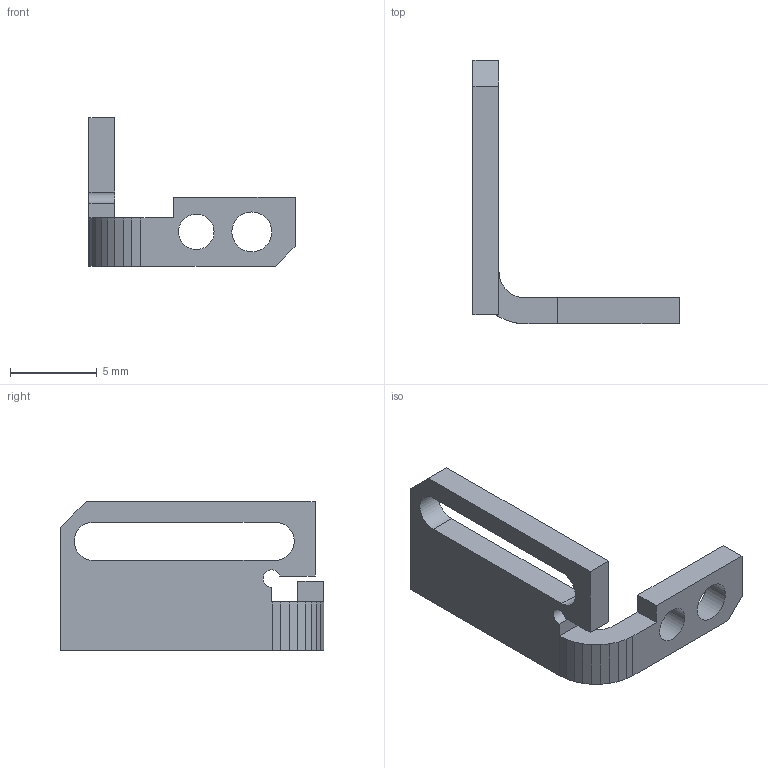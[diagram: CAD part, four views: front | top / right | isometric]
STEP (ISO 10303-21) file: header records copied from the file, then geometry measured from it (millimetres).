
FILE_DESCRIPTION(('Open CASCADE Model'),'2;1');
FILE_NAME('Open CASCADE Shape Model','2026-11-23T18:10:15',('Author'),( 'Open CASCADE'),'Open CASCADE STEP processor 8.0','build123d', 'Unknown');
FILE_SCHEMA(('AUTOMOTIVE_DESIGN { 1 0 10303 214 1 1 1 1 }'));
Length unit declared in the file: millimetre
Products named in the file (1): SOLID
Bounding box: 11.9 x 15.2 x 8.6 mm (x, y, z)
Volume: 183.3 mm3; surface area: 416.8 mm2
Topology: 1 solids, 1 shells, 42 faces, 119 edges, 79 vertices
Faces by surface type: plane 37, cylinder 5
Full cylindrical faces by diameter (mm): 2.05 x1, 2.3 x1
Entity records: 2856 total; most frequent: CARTESIAN_POINT 582, DIRECTION 375, LINE 264, VECTOR 264, ORIENTED_EDGE 238, PCURVE 238, DEFINITIONAL_REPRESENTATION 238, EDGE_CURVE 119
